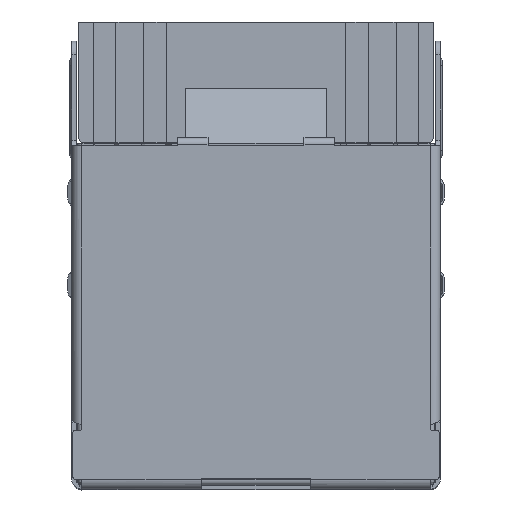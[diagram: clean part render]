
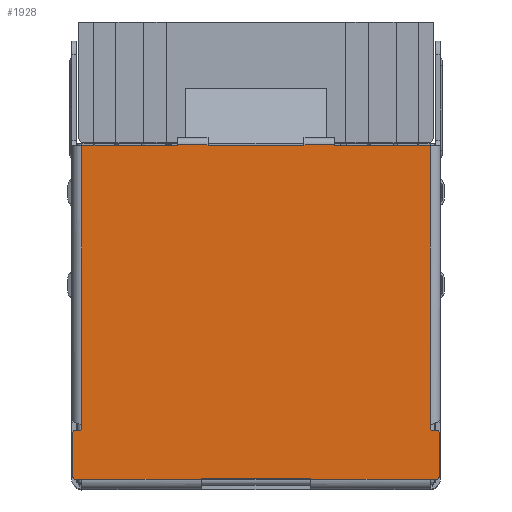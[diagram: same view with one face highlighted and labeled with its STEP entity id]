
A CAD part, top view. The second image highlights one B-rep face of the part: STEP entity #1928.
In plain terms, the highlighted planar face has unit normal (0, 0, 1).
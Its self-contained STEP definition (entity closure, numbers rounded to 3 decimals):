
#1179=CIRCLE('',#30050,0.1);
#1180=CIRCLE('',#30054,0.1);
#1181=CIRCLE('',#30057,0.1);
#1182=CIRCLE('',#30060,0.1);
#1183=CIRCLE('',#30066,0.1);
#1184=CIRCLE('',#30069,0.1);
#1928=ADVANCED_FACE('',(#4454),#3428,.F.);
#3428=PLANE('',#30078);
#4454=FACE_OUTER_BOUND('',#5997,.T.);
#5997=EDGE_LOOP('',(#14776,#14777,#14778,#14779,#14780,#14781,#14782,#14783,
#14784,#14785,#14786,#14787,#14788,#14789,#14790,#14791,#14792,#14793,#14794,
#14795,#14796,#14797,#14798,#14799,#14800,#14801,#14802,#14803,#14804,#14805));
#7486=LINE('',#39732,#10743);
#7494=LINE('',#39753,#10751);
#7500=LINE('',#39770,#10757);
#7642=LINE('',#40482,#10899);
#7658=LINE('',#40637,#10915);
#7724=LINE('',#40945,#10981);
#7727=LINE('',#40951,#10984);
#7733=LINE('',#40968,#10990);
#7736=LINE('',#40976,#10993);
#7737=LINE('',#40978,#10994);
#7740=LINE('',#40986,#10997);
#7744=LINE('',#40996,#11001);
#7746=LINE('',#41007,#11003);
#7749=LINE('',#41063,#11006);
#7753=LINE('',#41078,#11010);
#7755=LINE('',#41084,#11012);
#7760=LINE('',#41096,#11017);
#7761=LINE('',#41097,#11018);
#7762=LINE('',#41099,#11019);
#7763=LINE('',#41101,#11020);
#7764=LINE('',#41102,#11021);
#7765=LINE('',#41104,#11022);
#7766=LINE('',#41106,#11023);
#7767=LINE('',#41107,#11024);
#10743=VECTOR('',#32133,1.);
#10751=VECTOR('',#32147,1.);
#10757=VECTOR('',#32159,1.);
#10899=VECTOR('',#32465,1.);
#10915=VECTOR('',#32511,1.);
#10981=VECTOR('',#32681,1.);
#10984=VECTOR('',#32690,1.);
#10990=VECTOR('',#32706,1.);
#10993=VECTOR('',#32715,1.);
#10994=VECTOR('',#32718,1.);
#10997=VECTOR('',#32727,1.);
#11001=VECTOR('',#32737,1.);
#11003=VECTOR('',#32745,1.);
#11006=VECTOR('',#32754,1.);
#11010=VECTOR('',#32764,1.);
#11012=VECTOR('',#32772,1.);
#11017=VECTOR('',#32791,1.);
#11018=VECTOR('',#32792,1.);
#11019=VECTOR('',#32793,1.);
#11020=VECTOR('',#32794,1.);
#11021=VECTOR('',#32795,1.);
#11022=VECTOR('',#32796,1.);
#11023=VECTOR('',#32797,1.);
#11024=VECTOR('',#32798,1.);
#14776=ORIENTED_EDGE('',*,*,#25933,.T.);
#14777=ORIENTED_EDGE('',*,*,#25934,.F.);
#14778=ORIENTED_EDGE('',*,*,#25936,.T.);
#14779=ORIENTED_EDGE('',*,*,#25904,.F.);
#14780=ORIENTED_EDGE('',*,*,#25902,.F.);
#14781=ORIENTED_EDGE('',*,*,#25892,.F.);
#14782=ORIENTED_EDGE('',*,*,#25757,.F.);
#14783=ORIENTED_EDGE('',*,*,#25906,.F.);
#14784=ORIENTED_EDGE('',*,*,#25787,.F.);
#14785=ORIENTED_EDGE('',*,*,#25895,.F.);
#14786=ORIENTED_EDGE('',*,*,#25907,.F.);
#14787=ORIENTED_EDGE('',*,*,#25909,.F.);
#14788=ORIENTED_EDGE('',*,*,#25911,.F.);
#14789=ORIENTED_EDGE('',*,*,#25913,.F.);
#14790=ORIENTED_EDGE('',*,*,#25916,.T.);
#14791=ORIENTED_EDGE('',*,*,#25918,.T.);
#14792=ORIENTED_EDGE('',*,*,#25920,.F.);
#14793=ORIENTED_EDGE('',*,*,#25941,.F.);
#14794=ORIENTED_EDGE('',*,*,#25545,.T.);
#14795=ORIENTED_EDGE('',*,*,#25942,.T.);
#14796=ORIENTED_EDGE('',*,*,#25943,.F.);
#14797=ORIENTED_EDGE('',*,*,#25944,.T.);
#14798=ORIENTED_EDGE('',*,*,#25555,.T.);
#14799=ORIENTED_EDGE('',*,*,#25945,.T.);
#14800=ORIENTED_EDGE('',*,*,#25946,.F.);
#14801=ORIENTED_EDGE('',*,*,#25947,.T.);
#14802=ORIENTED_EDGE('',*,*,#25563,.T.);
#14803=ORIENTED_EDGE('',*,*,#25948,.F.);
#14804=ORIENTED_EDGE('',*,*,#25927,.T.);
#14805=ORIENTED_EDGE('',*,*,#25931,.T.);
#22733=VERTEX_POINT('',#39730);
#22735=VERTEX_POINT('',#39733);
#22742=VERTEX_POINT('',#39748);
#22744=VERTEX_POINT('',#39752);
#22746=VERTEX_POINT('',#39757);
#22752=VERTEX_POINT('',#39769);
#22882=VERTEX_POINT('',#40481);
#22883=VERTEX_POINT('',#40483);
#22896=VERTEX_POINT('',#40636);
#22897=VERTEX_POINT('',#40638);
#22915=VERTEX_POINT('',#40747);
#22964=VERTEX_POINT('',#40882);
#22973=VERTEX_POINT('',#40969);
#22974=VERTEX_POINT('',#40973);
#22975=VERTEX_POINT('',#40979);
#22976=VERTEX_POINT('',#40983);
#22977=VERTEX_POINT('',#40987);
#22978=VERTEX_POINT('',#40991);
#22979=VERTEX_POINT('',#40995);
#22980=VERTEX_POINT('',#40999);
#22981=VERTEX_POINT('',#41006);
#22986=VERTEX_POINT('',#41064);
#22987=VERTEX_POINT('',#41065);
#22988=VERTEX_POINT('',#41073);
#22989=VERTEX_POINT('',#41077);
#22990=VERTEX_POINT('',#41081);
#22991=VERTEX_POINT('',#41098);
#22992=VERTEX_POINT('',#41100);
#22993=VERTEX_POINT('',#41103);
#22994=VERTEX_POINT('',#41105);
#25545=EDGE_CURVE('',#22735,#22733,#7486,.T.);
#25555=EDGE_CURVE('',#22742,#22744,#7494,.T.);
#25563=EDGE_CURVE('',#22746,#22752,#7500,.T.);
#25757=EDGE_CURVE('',#22882,#22883,#7642,.T.);
#25787=EDGE_CURVE('',#22896,#22897,#7658,.T.);
#25892=EDGE_CURVE('',#22883,#22915,#7724,.T.);
#25895=EDGE_CURVE('',#22964,#22896,#7727,.T.);
#25902=EDGE_CURVE('',#22915,#22973,#7733,.T.);
#25904=EDGE_CURVE('',#22973,#22974,#1179,.T.);
#25906=EDGE_CURVE('',#22897,#22882,#7736,.T.);
#25907=EDGE_CURVE('',#22975,#22964,#7737,.T.);
#25909=EDGE_CURVE('',#22976,#22975,#1180,.T.);
#25911=EDGE_CURVE('',#22977,#22976,#7740,.T.);
#25913=EDGE_CURVE('',#22978,#22977,#1181,.T.);
#25916=EDGE_CURVE('',#22978,#22979,#7744,.T.);
#25918=EDGE_CURVE('',#22979,#22980,#1182,.T.);
#25920=EDGE_CURVE('',#22981,#22980,#7746,.T.);
#25927=EDGE_CURVE('',#22986,#22987,#7749,.T.);
#25931=EDGE_CURVE('',#22987,#22988,#1183,.T.);
#25933=EDGE_CURVE('',#22988,#22989,#7753,.T.);
#25934=EDGE_CURVE('',#22990,#22989,#1184,.T.);
#25936=EDGE_CURVE('',#22990,#22974,#7755,.T.);
#25941=EDGE_CURVE('',#22735,#22981,#7760,.T.);
#25942=EDGE_CURVE('',#22733,#22991,#7761,.T.);
#25943=EDGE_CURVE('',#22992,#22991,#7762,.T.);
#25944=EDGE_CURVE('',#22992,#22742,#7763,.T.);
#25945=EDGE_CURVE('',#22744,#22993,#7764,.T.);
#25946=EDGE_CURVE('',#22994,#22993,#7765,.T.);
#25947=EDGE_CURVE('',#22994,#22746,#7766,.T.);
#25948=EDGE_CURVE('',#22986,#22752,#7767,.T.);
#30050=AXIS2_PLACEMENT_3D('',#40972,#32710,#32711);
#30054=AXIS2_PLACEMENT_3D('',#40982,#32722,#32723);
#30057=AXIS2_PLACEMENT_3D('',#40990,#32731,#32732);
#30060=AXIS2_PLACEMENT_3D('',#41000,#32741,#32742);
#30066=AXIS2_PLACEMENT_3D('',#41074,#32759,#32760);
#30069=AXIS2_PLACEMENT_3D('',#41080,#32767,#32768);
#30078=AXIS2_PLACEMENT_3D('',#41108,#32799,#32800);
#32133=DIRECTION('',(-1.,0.,0.));
#32147=DIRECTION('',(-1.,0.,0.));
#32159=DIRECTION('',(-1.,0.,0.));
#32465=DIRECTION('',(0.,-1.,0.));
#32511=DIRECTION('',(0.,1.,0.));
#32681=DIRECTION('',(-1.,0.,0.));
#32690=DIRECTION('',(-1.,0.,0.));
#32706=DIRECTION('',(-1.,0.,0.));
#32710=DIRECTION('',(0.,0.,-1.));
#32711=DIRECTION('',(-1.,0.,0.));
#32715=DIRECTION('',(-1.,0.,0.));
#32718=DIRECTION('',(-1.,0.,0.));
#32722=DIRECTION('',(0.,0.,-1.));
#32723=DIRECTION('',(-1.,0.,0.));
#32727=DIRECTION('',(0.,-1.,0.));
#32731=DIRECTION('',(0.,0.,-1.));
#32732=DIRECTION('',(-1.,0.,0.));
#32737=DIRECTION('',(-1.,0.,0.));
#32741=DIRECTION('',(0.,0.,-1.));
#32742=DIRECTION('',(-1.,0.,0.));
#32745=DIRECTION('',(0.,-1.,0.));
#32754=DIRECTION('',(0.,-1.,0.));
#32759=DIRECTION('',(0.,0.,-1.));
#32760=DIRECTION('',(-1.,0.,0.));
#32764=DIRECTION('',(-1.,0.,0.));
#32767=DIRECTION('',(0.,0.,-1.));
#32768=DIRECTION('',(-1.,0.,0.));
#32772=DIRECTION('',(0.,-1.,0.));
#32791=DIRECTION('',(0.,-1.,0.));
#32792=DIRECTION('',(0.,1.,0.));
#32793=DIRECTION('',(1.,0.,0.));
#32794=DIRECTION('',(0.,-1.,0.));
#32795=DIRECTION('',(0.,1.,0.));
#32796=DIRECTION('',(1.,0.,0.));
#32797=DIRECTION('',(0.,-1.,0.));
#32798=DIRECTION('',(0.,1.,0.));
#32799=DIRECTION('',(0.,0.,-1.));
#32800=DIRECTION('',(-1.,0.,0.));
#39730=CARTESIAN_POINT('',(-86.5,-10.075,53.51));
#39732=CARTESIAN_POINT('',(-90.,-10.075,53.51));
#39733=CARTESIAN_POINT('',(-82.2,-10.075,53.51));
#39748=CARTESIAN_POINT('',(-87.85,-10.075,53.51));
#39752=CARTESIAN_POINT('',(-92.15,-10.075,53.51));
#39753=CARTESIAN_POINT('',(-90.,-10.075,53.51));
#39757=CARTESIAN_POINT('',(-93.5,-10.075,53.51));
#39769=CARTESIAN_POINT('',(-97.8,-10.075,53.51));
#39770=CARTESIAN_POINT('',(-90.,-10.075,53.51));
#40481=CARTESIAN_POINT('',(-92.45,-24.975,53.51));
#40482=CARTESIAN_POINT('',(-92.45,-17.55,53.51));
#40483=CARTESIAN_POINT('',(-92.45,-25.025,53.51));
#40636=CARTESIAN_POINT('',(-87.55,-25.025,53.51));
#40637=CARTESIAN_POINT('',(-87.55,-25.225,53.51));
#40638=CARTESIAN_POINT('',(-87.55,-24.975,53.51));
#40747=CARTESIAN_POINT('',(-97.9,-25.025,53.51));
#40882=CARTESIAN_POINT('',(-82.1,-25.025,53.51));
#40945=CARTESIAN_POINT('',(-97.933,-25.025,53.51));
#40951=CARTESIAN_POINT('',(-90.,-25.025,53.51));
#40968=CARTESIAN_POINT('',(-98.,-25.025,53.51));
#40969=CARTESIAN_POINT('',(-98.1,-25.025,53.51));
#40972=CARTESIAN_POINT('',(-98.1,-24.925,53.51));
#40973=CARTESIAN_POINT('',(-98.2,-24.925,53.51));
#40976=CARTESIAN_POINT('',(-90.,-24.975,53.51));
#40978=CARTESIAN_POINT('',(-82.,-25.025,53.51));
#40979=CARTESIAN_POINT('',(-81.9,-25.025,53.51));
#40982=CARTESIAN_POINT('',(-81.9,-24.925,53.51));
#40983=CARTESIAN_POINT('',(-81.8,-24.925,53.51));
#40986=CARTESIAN_POINT('',(-81.8,-23.925,53.51));
#40987=CARTESIAN_POINT('',(-81.8,-22.925,53.51));
#40990=CARTESIAN_POINT('',(-81.9,-22.925,53.51));
#40991=CARTESIAN_POINT('',(-81.9,-22.825,53.51));
#40995=CARTESIAN_POINT('',(-82.1,-22.825,53.51));
#40996=CARTESIAN_POINT('',(-82.,-22.825,53.51));
#40999=CARTESIAN_POINT('',(-82.2,-22.725,53.51));
#41000=CARTESIAN_POINT('',(-82.1,-22.725,53.51));
#41006=CARTESIAN_POINT('',(-82.2,-22.655,53.51));
#41007=CARTESIAN_POINT('',(-82.2,-22.682,53.51));
#41063=CARTESIAN_POINT('',(-97.8,-22.682,53.51));
#41064=CARTESIAN_POINT('',(-97.8,-22.655,53.51));
#41065=CARTESIAN_POINT('',(-97.8,-22.725,53.51));
#41073=CARTESIAN_POINT('',(-97.9,-22.825,53.51));
#41074=CARTESIAN_POINT('',(-97.9,-22.725,53.51));
#41077=CARTESIAN_POINT('',(-98.1,-22.825,53.51));
#41078=CARTESIAN_POINT('',(-98.,-22.825,53.51));
#41080=CARTESIAN_POINT('',(-98.1,-22.925,53.51));
#41081=CARTESIAN_POINT('',(-98.2,-22.925,53.51));
#41084=CARTESIAN_POINT('',(-98.2,-23.925,53.51));
#41096=CARTESIAN_POINT('',(-82.2,-17.55,53.51));
#41097=CARTESIAN_POINT('',(-86.5,-10.075,53.51));
#41098=CARTESIAN_POINT('',(-86.5,-10.025,53.51));
#41099=CARTESIAN_POINT('',(-86.456,-10.025,53.51));
#41100=CARTESIAN_POINT('',(-87.85,-10.025,53.51));
#41101=CARTESIAN_POINT('',(-87.85,-10.075,53.51));
#41102=CARTESIAN_POINT('',(-92.15,-10.075,53.51));
#41103=CARTESIAN_POINT('',(-92.15,-10.025,53.51));
#41104=CARTESIAN_POINT('',(-92.085,-10.025,53.51));
#41105=CARTESIAN_POINT('',(-93.5,-10.025,53.51));
#41106=CARTESIAN_POINT('',(-93.5,-10.075,53.51));
#41107=CARTESIAN_POINT('',(-97.8,-17.55,53.51));
#41108=CARTESIAN_POINT('',(-90.,-17.55,53.51));
